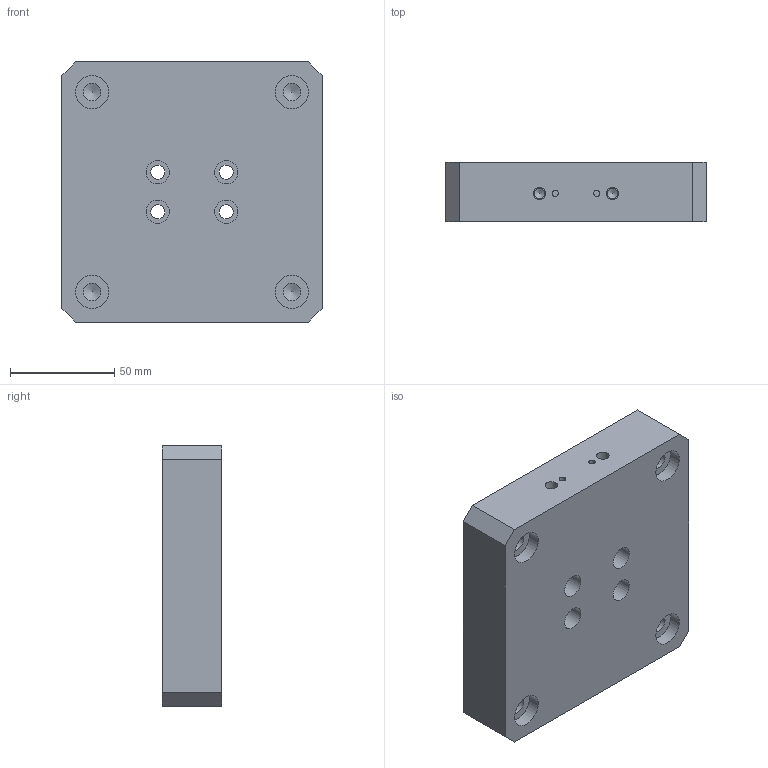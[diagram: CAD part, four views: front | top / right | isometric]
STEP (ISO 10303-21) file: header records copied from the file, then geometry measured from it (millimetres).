
FILE_DESCRIPTION (( 'STEP AP214' ), '1' );
FILE_NAME ('A96-CERX-1_WEBSITE.STEP', '2025-08-11T13:20:15', ( '' ), ( '' ), 'SwSTEP 2.0', 'SolidWorks 2025', '' );
FILE_SCHEMA (( 'AUTOMOTIVE_DESIGN' ));
Length unit declared in the file: inch
Products named in the file (1): A96-CERX-1_WEBSITE
Bounding box: 125 x 28.57 x 125 mm (x, y, z)
Volume: 420202.3 mm3; surface area: 51948.7 mm2
Topology: 1 solids, 1 shells, 52 faces, 111 edges, 74 vertices
Faces by surface type: cylinder 23, plane 23, cone 6
Full cylindrical faces by diameter (mm): 3.03 x2, 5 x2, 6 x2, 6.756 x4, 8.5 x4, 11.112 x4, 16.02 x4, 50.838 x1
Entity records: 1211 total; most frequent: DIRECTION 222, CARTESIAN_POINT 185, ORIENTED_EDGE 140, EDGE_LOOP 102, AXIS2_PLACEMENT_3D 99, FACE_OUTER_BOUND 75, EDGE_CURVE 70, VERTEX_POINT 62
